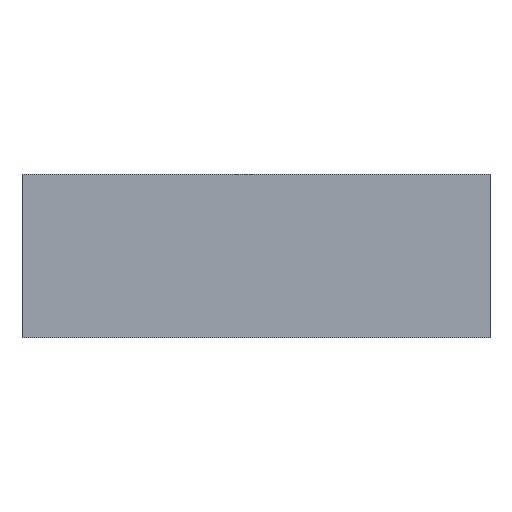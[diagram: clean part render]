
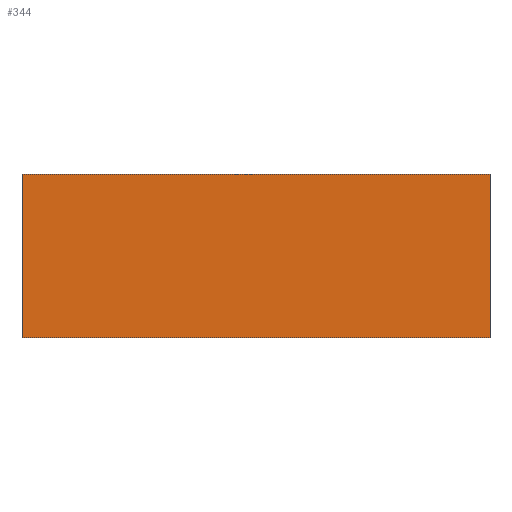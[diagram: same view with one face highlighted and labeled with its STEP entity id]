
A CAD part, top view. The second image highlights one B-rep face of the part: STEP entity #344.
In plain terms, the highlighted planar face has unit normal (0, 0, 1).
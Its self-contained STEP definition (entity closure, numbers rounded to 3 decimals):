
#215 = VERTEX_POINT('',#216);
#216 = CARTESIAN_POINT('',(0.,0.,0.9));
#222 = EDGE_CURVE('',#215,#223,#225,.T.);
#223 = VERTEX_POINT('',#224);
#224 = CARTESIAN_POINT('',(10.,0.,0.9));
#225 = LINE('',#226,#227);
#226 = CARTESIAN_POINT('',(0.,0.,0.9));
#227 = VECTOR('',#228,1.);
#228 = DIRECTION('',(1.,0.,0.));
#253 = EDGE_CURVE('',#223,#254,#256,.T.);
#254 = VERTEX_POINT('',#255);
#255 = CARTESIAN_POINT('',(10.,3.5,0.9));
#256 = LINE('',#257,#258);
#257 = CARTESIAN_POINT('',(10.,0.,0.9));
#258 = VECTOR('',#259,1.);
#259 = DIRECTION('',(0.,1.,0.));
#284 = EDGE_CURVE('',#254,#285,#287,.T.);
#285 = VERTEX_POINT('',#286);
#286 = CARTESIAN_POINT('',(0.,3.5,0.9));
#287 = LINE('',#288,#289);
#288 = CARTESIAN_POINT('',(10.,3.5,0.9));
#289 = VECTOR('',#290,1.);
#290 = DIRECTION('',(-1.,0.,0.));
#315 = EDGE_CURVE('',#285,#215,#316,.T.);
#316 = LINE('',#317,#318);
#317 = CARTESIAN_POINT('',(0.,3.5,0.9));
#318 = VECTOR('',#319,1.);
#319 = DIRECTION('',(0.,-1.,0.));
#344 = ADVANCED_FACE('',(#345),#351,.T.);
#345 = FACE_BOUND('',#346,.T.);
#346 = EDGE_LOOP('',(#347,#348,#349,#350));
#347 = ORIENTED_EDGE('',*,*,#222,.T.);
#348 = ORIENTED_EDGE('',*,*,#253,.T.);
#349 = ORIENTED_EDGE('',*,*,#284,.T.);
#350 = ORIENTED_EDGE('',*,*,#315,.T.);
#351 = PLANE('',#352);
#352 = AXIS2_PLACEMENT_3D('',#353,#354,#355);
#353 = CARTESIAN_POINT('',(5.,1.75,0.9));
#354 = DIRECTION('',(0.,0.,1.));
#355 = DIRECTION('',(1.,0.,0.));
